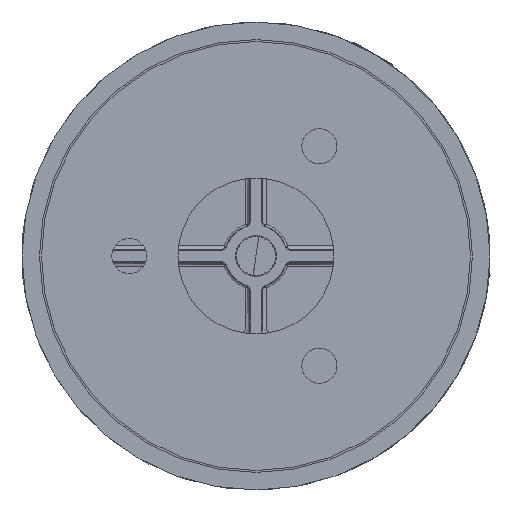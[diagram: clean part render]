
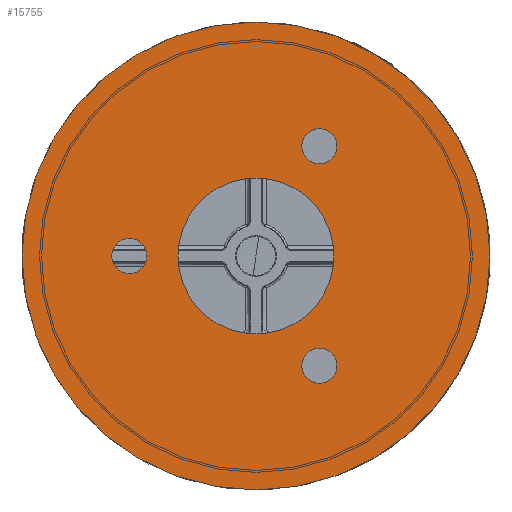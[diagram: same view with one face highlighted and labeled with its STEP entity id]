
A CAD part, front view. The second image highlights one B-rep face of the part: STEP entity #15755.
In plain terms, the highlighted planar face has unit normal (0, -1, 0).
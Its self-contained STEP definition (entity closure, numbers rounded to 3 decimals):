
#95 = DIRECTION ( 'NONE',  ( 0., 1., 0. ) ) ;
#216 = VERTEX_POINT ( 'NONE', #6445 ) ;
#258 = CARTESIAN_POINT ( 'NONE',  ( 16.25, 0., 28.146 ) ) ;
#267 = VERTEX_POINT ( 'NONE', #9876 ) ;
#508 = AXIS2_PLACEMENT_3D ( 'NONE', #20707, #20299, #2503 ) ;
#1480 = CARTESIAN_POINT ( 'NONE',  ( 16.25, 0., 28.146 ) ) ;
#2059 = DIRECTION ( 'NONE',  ( 0., 0., 1. ) ) ;
#2213 = DIRECTION ( 'NONE',  ( 0., 1., 0. ) ) ;
#2233 = CIRCLE ( 'NONE', #508, 4.5 ) ;
#2276 = DIRECTION ( 'NONE',  ( 0., 0., 1. ) ) ;
#2503 = DIRECTION ( 'NONE',  ( 0., 0., 1. ) ) ;
#2582 = CARTESIAN_POINT ( 'NONE',  ( 0., 0., 60. ) ) ;
#2741 = EDGE_LOOP ( 'NONE', ( #15010, #9269 ) ) ;
#3039 = AXIS2_PLACEMENT_3D ( 'NONE', #258, #6818, #11769 ) ;
#3281 = DIRECTION ( 'NONE',  ( 0., 0., 1. ) ) ;
#3307 = AXIS2_PLACEMENT_3D ( 'NONE', #6224, #6819, #3281 ) ;
#3381 = EDGE_CURVE ( 'NONE', #15837, #11029, #7184, .T. ) ;
#3785 = ORIENTED_EDGE ( 'NONE', *, *, #5564, .T. ) ;
#4010 = CIRCLE ( 'NONE', #3307, 60. ) ;
#4248 = DIRECTION ( 'NONE',  ( 0., 1., 0. ) ) ;
#4764 = CIRCLE ( 'NONE', #10256, 4.5 ) ;
#5464 = CIRCLE ( 'NONE', #3039, 4.5 ) ;
#5564 = EDGE_CURVE ( 'NONE', #20578, #17136, #11020, .T. ) ;
#5916 = PLANE ( 'NONE',  #14730 ) ;
#5946 = EDGE_CURVE ( 'NONE', #267, #9265, #13070, .T. ) ;
#6016 = CARTESIAN_POINT ( 'NONE',  ( -32.5, 0., 4.5 ) ) ;
#6103 = VERTEX_POINT ( 'NONE', #15356 ) ;
#6224 = CARTESIAN_POINT ( 'NONE',  ( 0., 0., 0. ) ) ;
#6445 = CARTESIAN_POINT ( 'NONE',  ( 16.25, 0., -32.646 ) ) ;
#6548 = AXIS2_PLACEMENT_3D ( 'NONE', #18343, #16863, #2059 ) ;
#6674 = DIRECTION ( 'NONE',  ( 0., 1., 0. ) ) ;
#6818 = DIRECTION ( 'NONE',  ( 0., 1., 0. ) ) ;
#6819 = DIRECTION ( 'NONE',  ( 0., 1., 0. ) ) ;
#7184 = CIRCLE ( 'NONE', #11991, 4.5 ) ;
#7407 = FACE_BOUND ( 'NONE', #15532, .T. ) ;
#7929 = DIRECTION ( 'NONE',  ( 0., 0., 1. ) ) ;
#7935 = EDGE_CURVE ( 'NONE', #16333, #6103, #12772, .T. ) ;
#8022 = DIRECTION ( 'NONE',  ( 0., 1., 0. ) ) ;
#8416 = AXIS2_PLACEMENT_3D ( 'NONE', #14830, #6674, #2276 ) ;
#8749 = DIRECTION ( 'NONE',  ( 0., 0., 1. ) ) ;
#9025 = CARTESIAN_POINT ( 'NONE',  ( 0., 0., 0. ) ) ;
#9030 = ORIENTED_EDGE ( 'NONE', *, *, #14604, .T. ) ;
#9265 = VERTEX_POINT ( 'NONE', #2582 ) ;
#9269 = ORIENTED_EDGE ( 'NONE', *, *, #13969, .T. ) ;
#9375 = EDGE_CURVE ( 'NONE', #216, #16804, #21013, .T. ) ;
#9448 = CARTESIAN_POINT ( 'NONE',  ( 16.25, 0., -23.646 ) ) ;
#9609 = CARTESIAN_POINT ( 'NONE',  ( 0., 0., 20. ) ) ;
#9876 = CARTESIAN_POINT ( 'NONE',  ( 0., 0., -60. ) ) ;
#10256 = AXIS2_PLACEMENT_3D ( 'NONE', #17005, #2213, #8749 ) ;
#10548 = EDGE_CURVE ( 'NONE', #11029, #15837, #2233, .T. ) ;
#10777 = ORIENTED_EDGE ( 'NONE', *, *, #10548, .T. ) ;
#11020 = CIRCLE ( 'NONE', #19204, 20. ) ;
#11029 = VERTEX_POINT ( 'NONE', #19242 ) ;
#11596 = DIRECTION ( 'NONE',  ( 0., 0., 1. ) ) ;
#11769 = DIRECTION ( 'NONE',  ( 0., 0., 1. ) ) ;
#11991 = AXIS2_PLACEMENT_3D ( 'NONE', #14907, #19927, #11596 ) ;
#12272 = ORIENTED_EDGE ( 'NONE', *, *, #9375, .T. ) ;
#12404 = CARTESIAN_POINT ( 'NONE',  ( 0., 0., -20. ) ) ;
#12461 = FACE_BOUND ( 'NONE', #14480, .T. ) ;
#12559 = FACE_OUTER_BOUND ( 'NONE', #15163, .T. ) ;
#12685 = ORIENTED_EDGE ( 'NONE', *, *, #3381, .T. ) ;
#12772 = CIRCLE ( 'NONE', #14134, 4.5 ) ;
#12815 = EDGE_LOOP ( 'NONE', ( #10777, #12685 ) ) ;
#13070 = CIRCLE ( 'NONE', #6548, 60. ) ;
#13969 = EDGE_CURVE ( 'NONE', #6103, #16333, #5464, .T. ) ;
#14099 = DIRECTION ( 'NONE',  ( 0., 0., 1. ) ) ;
#14134 = AXIS2_PLACEMENT_3D ( 'NONE', #1480, #8022, #14573 ) ;
#14480 = EDGE_LOOP ( 'NONE', ( #3785, #19534 ) ) ;
#14527 = ORIENTED_EDGE ( 'NONE', *, *, #20273, .F. ) ;
#14573 = DIRECTION ( 'NONE',  ( 0., 0., 1. ) ) ;
#14604 = EDGE_CURVE ( 'NONE', #16804, #216, #4764, .T. ) ;
#14730 = AXIS2_PLACEMENT_3D ( 'NONE', #9025, #15456, #18974 ) ;
#14830 = CARTESIAN_POINT ( 'NONE',  ( 0., 0., 0. ) ) ;
#14907 = CARTESIAN_POINT ( 'NONE',  ( -32.5, 0., 0. ) ) ;
#15010 = ORIENTED_EDGE ( 'NONE', *, *, #7935, .T. ) ;
#15163 = EDGE_LOOP ( 'NONE', ( #17567, #14527 ) ) ;
#15356 = CARTESIAN_POINT ( 'NONE',  ( 16.25, 0., 32.646 ) ) ;
#15456 = DIRECTION ( 'NONE',  ( 0., 1., 0. ) ) ;
#15532 = EDGE_LOOP ( 'NONE', ( #12272, #9030 ) ) ;
#15755 = ADVANCED_FACE ( 'NONE', ( #12559, #12461, #18759, #7407, #18654 ), #5916, .F. ) ;
#15837 = VERTEX_POINT ( 'NONE', #6016 ) ;
#16333 = VERTEX_POINT ( 'NONE', #19028 ) ;
#16804 = VERTEX_POINT ( 'NONE', #9448 ) ;
#16863 = DIRECTION ( 'NONE',  ( 0., 1., 0. ) ) ;
#17005 = CARTESIAN_POINT ( 'NONE',  ( 16.25, 0., -28.146 ) ) ;
#17136 = VERTEX_POINT ( 'NONE', #9609 ) ;
#17567 = ORIENTED_EDGE ( 'NONE', *, *, #5946, .F. ) ;
#17894 = CARTESIAN_POINT ( 'NONE',  ( 16.25, 0., -28.146 ) ) ;
#18343 = CARTESIAN_POINT ( 'NONE',  ( 0., 0., 0. ) ) ;
#18654 = FACE_BOUND ( 'NONE', #2741, .T. ) ;
#18710 = EDGE_CURVE ( 'NONE', #17136, #20578, #20378, .T. ) ;
#18759 = FACE_BOUND ( 'NONE', #12815, .T. ) ;
#18974 = DIRECTION ( 'NONE',  ( 0., 0., 1. ) ) ;
#18979 = AXIS2_PLACEMENT_3D ( 'NONE', #17894, #95, #7929 ) ;
#19028 = CARTESIAN_POINT ( 'NONE',  ( 16.25, 0., 23.646 ) ) ;
#19111 = CARTESIAN_POINT ( 'NONE',  ( 0., 0., 0. ) ) ;
#19204 = AXIS2_PLACEMENT_3D ( 'NONE', #19111, #4248, #14099 ) ;
#19242 = CARTESIAN_POINT ( 'NONE',  ( -32.5, 0., -4.5 ) ) ;
#19534 = ORIENTED_EDGE ( 'NONE', *, *, #18710, .T. ) ;
#19927 = DIRECTION ( 'NONE',  ( 0., 1., 0. ) ) ;
#20273 = EDGE_CURVE ( 'NONE', #9265, #267, #4010, .T. ) ;
#20299 = DIRECTION ( 'NONE',  ( 0., 1., 0. ) ) ;
#20378 = CIRCLE ( 'NONE', #8416, 20. ) ;
#20578 = VERTEX_POINT ( 'NONE', #12404 ) ;
#20707 = CARTESIAN_POINT ( 'NONE',  ( -32.5, 0., 0. ) ) ;
#21013 = CIRCLE ( 'NONE', #18979, 4.5 ) ;
